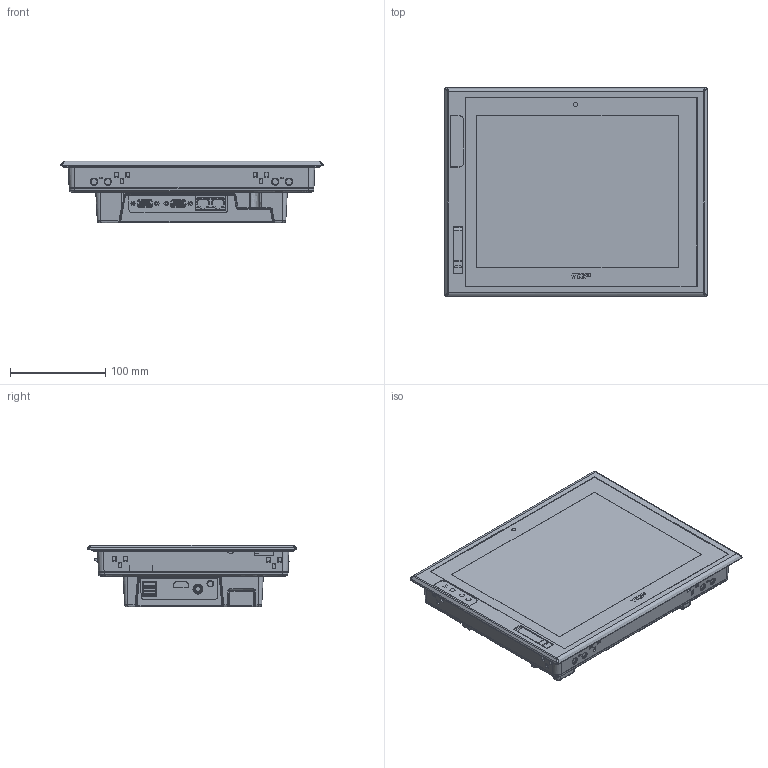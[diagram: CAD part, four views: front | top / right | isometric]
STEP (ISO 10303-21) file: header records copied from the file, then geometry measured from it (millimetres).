
FILE_DESCRIPTION((''),'2;1');
FILE_NAME('00_TOPRD1020S0_TOPRP20D0_ASM','2015-02-09T',('bckim'),(''),'PRO/ENGINEER BY PARAMETRIC TECHNOLOGY CORPORATION, 2013410','PRO/ENGINEER BY PARAMETRIC TECHNOLOGY CORPORATION, 2013410','');
FILE_SCHEMA(('CONFIG_CONTROL_DESIGN'));
Products named in the file (3): 00_DP10; 00_PROCESS; 00_TOPRD1020S0_TOPRP20D0_ASM
Assembly tree (2 placements, depth 2):
  00_TOPRD1020S0_TOPRP20D0_ASM
    00_DP10
    00_PROCESS
Bounding box: 275.99 x 219.49 x 64.9 mm (x, y, z)
Volume: 2335021.2 mm3; surface area: 371150.4 mm2
Topology: 2 solids, 47 shells, 3871 faces, 9852 edges, 6170 vertices
Faces by surface type: bspline 3871
Entity records: 244686 total; most frequent: CARTESIAN_POINT 165650, ORIENTED_EDGE 19584, EDGE_CURVE 9792, DIRECTION 9665, VERTEX_POINT 6170, VECTOR 6115, LINE 6115, EDGE_LOOP 4086
